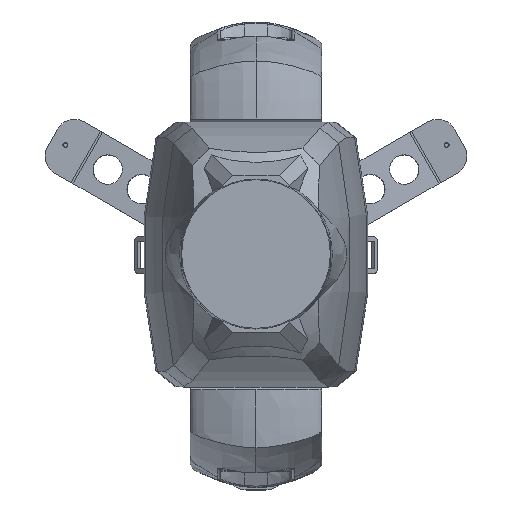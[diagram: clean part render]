
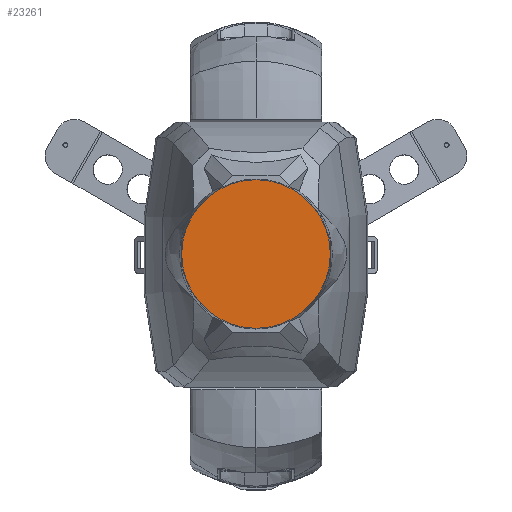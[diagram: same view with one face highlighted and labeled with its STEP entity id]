
A CAD part, top view. The second image highlights one B-rep face of the part: STEP entity #23261.
In plain terms, the highlighted planar face has unit normal (0, 0, 1) as drawn and (0, 0, -1) by its records, which use the part's own axes.
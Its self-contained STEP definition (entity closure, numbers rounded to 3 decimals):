
#21631=CARTESIAN_POINT('',(0.,0.,-871.984));
#21632=DIRECTION('',(0.,0.,1.));
#21633=DIRECTION('',(0.,-1.,0.));
#21634=AXIS2_PLACEMENT_3D('',#21631,#21632,#21633);
#21669=CARTESIAN_POINT('',(0.,0.,-871.984));
#21670=DIRECTION('',(0.,0.,-1.));
#21671=DIRECTION('',(0.,-1.,0.));
#21672=AXIS2_PLACEMENT_3D('',#21669,#21670,#21671);
#22380=CARTESIAN_POINT('',(0.,-75.528,-871.984));
#22381=CARTESIAN_POINT('',(0.,75.528,
-871.984));
#22382=VERTEX_POINT('',#22380);
#22383=VERTEX_POINT('',#22381);
#23252=CARTESIAN_POINT('',(0.,-134.4,-871.984));
#23253=DIRECTION('',(0.,0.,-1.));
#23254=DIRECTION('',(0.,-1.,0.));
#23255=AXIS2_PLACEMENT_3D('',#23252,#23253,#23254);
#23256=PLANE('',#23255);
#23257=ORIENTED_EDGE('',*,*,#23239,.T.);
#23258=ORIENTED_EDGE('',*,*,#23218,.F.);
#23259=EDGE_LOOP('',(#23257,#23258));
#23260=FACE_OUTER_BOUND('',#23259,.F.);
#21635=CIRCLE('',#21634,75.528);
#21673=CIRCLE('',#21672,75.528);
#23218=EDGE_CURVE('',#22382,#22383,#21673,.T.);
#23239=EDGE_CURVE('',#22382,#22383,#21635,.T.);
#23261=ADVANCED_FACE('',(#23260),#23256,.T.);
